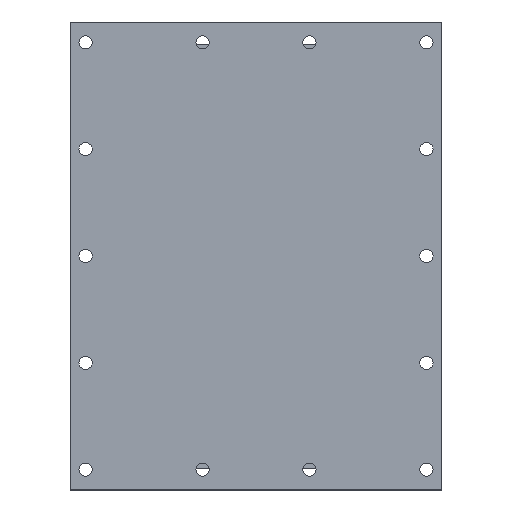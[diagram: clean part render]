
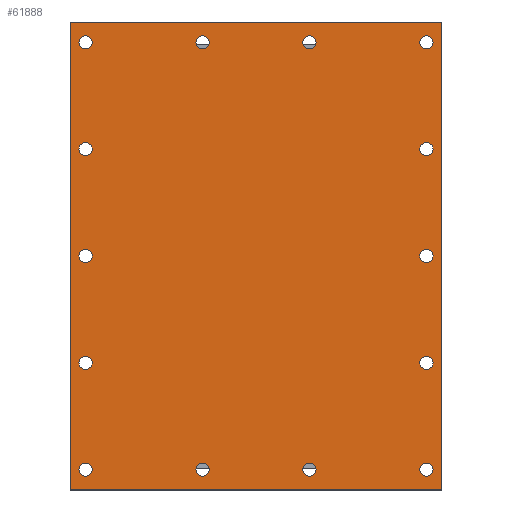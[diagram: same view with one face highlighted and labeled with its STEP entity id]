
A CAD part, top view. The second image highlights one B-rep face of the part: STEP entity #61888.
In plain terms, the highlighted planar face has unit normal (0, 0, 1).
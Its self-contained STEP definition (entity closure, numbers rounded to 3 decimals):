
#5061=LINE('',#105219,#9973);
#5062=LINE('',#105221,#9974);
#5063=LINE('',#105223,#9975);
#5064=LINE('',#105224,#9976);
#9973=VECTOR('',#77960,730.);
#9974=VECTOR('',#77961,920.);
#9975=VECTOR('',#77962,730.);
#9976=VECTOR('',#77963,920.);
#13142=PLANE('',#66686);
#15038=FACE_BOUND('',#20906,.T.);
#15039=FACE_BOUND('',#20907,.T.);
#15040=FACE_BOUND('',#20908,.T.);
#15041=FACE_BOUND('',#20909,.T.);
#15042=FACE_BOUND('',#20910,.T.);
#15043=FACE_BOUND('',#20911,.T.);
#15044=FACE_BOUND('',#20912,.T.);
#15045=FACE_BOUND('',#20913,.T.);
#15046=FACE_BOUND('',#20914,.T.);
#15047=FACE_BOUND('',#20915,.T.);
#15048=FACE_BOUND('',#20916,.T.);
#15049=FACE_BOUND('',#20917,.T.);
#15050=FACE_BOUND('',#20918,.T.);
#15051=FACE_BOUND('',#20919,.T.);
#17097=FACE_OUTER_BOUND('',#20905,.T.);
#20905=EDGE_LOOP('',(#48169,#48170,#48171,#48172));
#20906=EDGE_LOOP('',(#48173));
#20907=EDGE_LOOP('',(#48174));
#20908=EDGE_LOOP('',(#48175));
#20909=EDGE_LOOP('',(#48176));
#20910=EDGE_LOOP('',(#48177));
#20911=EDGE_LOOP('',(#48178));
#20912=EDGE_LOOP('',(#48179));
#20913=EDGE_LOOP('',(#48180));
#20914=EDGE_LOOP('',(#48181));
#20915=EDGE_LOOP('',(#48182));
#20916=EDGE_LOOP('',(#48183));
#20917=EDGE_LOOP('',(#48184));
#20918=EDGE_LOOP('',(#48185));
#20919=EDGE_LOOP('',(#48186));
#22672=CIRCLE('',#63573,13.);
#22674=CIRCLE('',#63576,13.);
#22676=CIRCLE('',#63579,13.);
#22678=CIRCLE('',#63582,13.);
#22680=CIRCLE('',#63585,13.);
#22682=CIRCLE('',#63588,13.);
#22684=CIRCLE('',#63591,13.);
#22686=CIRCLE('',#63594,13.);
#22688=CIRCLE('',#63597,13.);
#22690=CIRCLE('',#63600,13.);
#22692=CIRCLE('',#63603,13.);
#22694=CIRCLE('',#63606,13.);
#22696=CIRCLE('',#63609,13.);
#22698=CIRCLE('',#63612,13.);
#24966=VERTEX_POINT('',#85006);
#24968=VERTEX_POINT('',#85011);
#24970=VERTEX_POINT('',#85016);
#24972=VERTEX_POINT('',#85021);
#24974=VERTEX_POINT('',#85026);
#24976=VERTEX_POINT('',#85031);
#24978=VERTEX_POINT('',#85036);
#24980=VERTEX_POINT('',#85041);
#24982=VERTEX_POINT('',#85046);
#24984=VERTEX_POINT('',#85051);
#24986=VERTEX_POINT('',#85056);
#24988=VERTEX_POINT('',#85061);
#24990=VERTEX_POINT('',#85066);
#24992=VERTEX_POINT('',#85071);
#27897=VERTEX_POINT('',#105217);
#27898=VERTEX_POINT('',#105218);
#27899=VERTEX_POINT('',#105220);
#27900=VERTEX_POINT('',#105222);
#30429=EDGE_CURVE('',#24966,#24966,#22672,.T.);
#30431=EDGE_CURVE('',#24968,#24968,#22674,.T.);
#30433=EDGE_CURVE('',#24970,#24970,#22676,.T.);
#30435=EDGE_CURVE('',#24972,#24972,#22678,.T.);
#30437=EDGE_CURVE('',#24974,#24974,#22680,.T.);
#30439=EDGE_CURVE('',#24976,#24976,#22682,.T.);
#30441=EDGE_CURVE('',#24978,#24978,#22684,.T.);
#30443=EDGE_CURVE('',#24980,#24980,#22686,.T.);
#30445=EDGE_CURVE('',#24982,#24982,#22688,.T.);
#30447=EDGE_CURVE('',#24984,#24984,#22690,.T.);
#30449=EDGE_CURVE('',#24986,#24986,#22692,.T.);
#30451=EDGE_CURVE('',#24988,#24988,#22694,.T.);
#30453=EDGE_CURVE('',#24990,#24990,#22696,.T.);
#30455=EDGE_CURVE('',#24992,#24992,#22698,.T.);
#35055=EDGE_CURVE('',#27897,#27898,#5061,.T.);
#35056=EDGE_CURVE('',#27899,#27897,#5062,.T.);
#35057=EDGE_CURVE('',#27900,#27899,#5063,.T.);
#35058=EDGE_CURVE('',#27898,#27900,#5064,.T.);
#48169=ORIENTED_EDGE('',*,*,#35055,.F.);
#48170=ORIENTED_EDGE('',*,*,#35056,.F.);
#48171=ORIENTED_EDGE('',*,*,#35057,.F.);
#48172=ORIENTED_EDGE('',*,*,#35058,.F.);
#48173=ORIENTED_EDGE('',*,*,#30429,.T.);
#48174=ORIENTED_EDGE('',*,*,#30431,.T.);
#48175=ORIENTED_EDGE('',*,*,#30433,.T.);
#48176=ORIENTED_EDGE('',*,*,#30435,.T.);
#48177=ORIENTED_EDGE('',*,*,#30437,.T.);
#48178=ORIENTED_EDGE('',*,*,#30439,.T.);
#48179=ORIENTED_EDGE('',*,*,#30441,.T.);
#48180=ORIENTED_EDGE('',*,*,#30443,.T.);
#48181=ORIENTED_EDGE('',*,*,#30445,.T.);
#48182=ORIENTED_EDGE('',*,*,#30447,.T.);
#48183=ORIENTED_EDGE('',*,*,#30449,.T.);
#48184=ORIENTED_EDGE('',*,*,#30451,.T.);
#48185=ORIENTED_EDGE('',*,*,#30453,.T.);
#48186=ORIENTED_EDGE('',*,*,#30455,.T.);
#61888=ADVANCED_FACE('',(#17097,#15038,#15039,#15040,#15041,#15042,#15043,
#15044,#15045,#15046,#15047,#15048,#15049,#15050,#15051),#13142,.T.);
#63573=AXIS2_PLACEMENT_3D('',#85007,#69158,#69159);
#63576=AXIS2_PLACEMENT_3D('',#85012,#69164,#69165);
#63579=AXIS2_PLACEMENT_3D('',#85017,#69170,#69171);
#63582=AXIS2_PLACEMENT_3D('',#85022,#69176,#69177);
#63585=AXIS2_PLACEMENT_3D('',#85027,#69182,#69183);
#63588=AXIS2_PLACEMENT_3D('',#85032,#69188,#69189);
#63591=AXIS2_PLACEMENT_3D('',#85037,#69194,#69195);
#63594=AXIS2_PLACEMENT_3D('',#85042,#69200,#69201);
#63597=AXIS2_PLACEMENT_3D('',#85047,#69206,#69207);
#63600=AXIS2_PLACEMENT_3D('',#85052,#69212,#69213);
#63603=AXIS2_PLACEMENT_3D('',#85057,#69218,#69219);
#63606=AXIS2_PLACEMENT_3D('',#85062,#69224,#69225);
#63609=AXIS2_PLACEMENT_3D('',#85067,#69230,#69231);
#63612=AXIS2_PLACEMENT_3D('',#85072,#69236,#69237);
#66686=AXIS2_PLACEMENT_3D('',#105216,#77958,#77959);
#69158=DIRECTION('center_axis',(0.,0.,
-1.));
#69159=DIRECTION('ref_axis',(1.,0.,0.));
#69164=DIRECTION('center_axis',(0.,0.,
-1.));
#69165=DIRECTION('ref_axis',(1.,0.,0.));
#69170=DIRECTION('center_axis',(0.,0.,
-1.));
#69171=DIRECTION('ref_axis',(1.,0.,0.));
#69176=DIRECTION('center_axis',(0.,0.,
-1.));
#69177=DIRECTION('ref_axis',(1.,0.,0.));
#69182=DIRECTION('center_axis',(0.,0.,
-1.));
#69183=DIRECTION('ref_axis',(1.,0.,0.));
#69188=DIRECTION('center_axis',(0.,0.,
-1.));
#69189=DIRECTION('ref_axis',(1.,0.,0.));
#69194=DIRECTION('center_axis',(0.,0.,
-1.));
#69195=DIRECTION('ref_axis',(1.,0.,0.));
#69200=DIRECTION('center_axis',(0.,0.,
-1.));
#69201=DIRECTION('ref_axis',(1.,0.,0.));
#69206=DIRECTION('center_axis',(0.,0.,
-1.));
#69207=DIRECTION('ref_axis',(1.,0.,0.));
#69212=DIRECTION('center_axis',(0.,0.,
-1.));
#69213=DIRECTION('ref_axis',(1.,0.,0.));
#69218=DIRECTION('center_axis',(0.,0.,
-1.));
#69219=DIRECTION('ref_axis',(1.,0.,0.));
#69224=DIRECTION('center_axis',(0.,0.,
-1.));
#69225=DIRECTION('ref_axis',(1.,0.,0.));
#69230=DIRECTION('center_axis',(0.,0.,
-1.));
#69231=DIRECTION('ref_axis',(1.,0.,0.));
#69236=DIRECTION('center_axis',(0.,0.,
-1.));
#69237=DIRECTION('ref_axis',(1.,0.,0.));
#77958=DIRECTION('center_axis',(0.,0.,
1.));
#77959=DIRECTION('ref_axis',(0.,1.,0.));
#77960=DIRECTION('',(-1.,0.,0.));
#77961=DIRECTION('',(0.,-1.,0.));
#77962=DIRECTION('',(1.,0.,0.));
#77963=DIRECTION('',(0.,1.,0.));
#85006=CARTESIAN_POINT('',(118.,420.,12.5));
#85007=CARTESIAN_POINT('Origin',(105.,420.,12.5));
#85011=CARTESIAN_POINT('',(348.,420.,12.5));
#85012=CARTESIAN_POINT('Origin',(335.,420.,12.5));
#85016=CARTESIAN_POINT('',(348.,-420.,12.5));
#85017=CARTESIAN_POINT('Origin',(335.,-420.,12.5));
#85021=CARTESIAN_POINT('',(118.,-420.,12.5));
#85022=CARTESIAN_POINT('Origin',(105.,-420.,12.5));
#85026=CARTESIAN_POINT('',(-322.,420.,12.5));
#85027=CARTESIAN_POINT('Origin',(-335.,420.,12.5));
#85031=CARTESIAN_POINT('',(-322.,0.,12.5));
#85032=CARTESIAN_POINT('Origin',(-335.,0.,12.5));
#85036=CARTESIAN_POINT('',(-322.,-420.,12.5));
#85037=CARTESIAN_POINT('Origin',(-335.,-420.,12.5));
#85041=CARTESIAN_POINT('',(-322.,-210.,12.5));
#85042=CARTESIAN_POINT('Origin',(-335.,-210.,12.5));
#85046=CARTESIAN_POINT('',(-322.,210.,12.5));
#85047=CARTESIAN_POINT('Origin',(-335.,210.,12.5));
#85051=CARTESIAN_POINT('',(-92.,-420.,12.5));
#85052=CARTESIAN_POINT('Origin',(-105.,-420.,12.5));
#85056=CARTESIAN_POINT('',(348.,-210.,12.5));
#85057=CARTESIAN_POINT('Origin',(335.,-210.,12.5));
#85061=CARTESIAN_POINT('',(348.,0.,12.5));
#85062=CARTESIAN_POINT('Origin',(335.,0.,12.5));
#85066=CARTESIAN_POINT('',(348.,210.,12.5));
#85067=CARTESIAN_POINT('Origin',(335.,210.,12.5));
#85071=CARTESIAN_POINT('',(-92.,420.,12.5));
#85072=CARTESIAN_POINT('Origin',(-105.,420.,12.5));
#105216=CARTESIAN_POINT('Origin',(0.,0.,
12.5));
#105217=CARTESIAN_POINT('',(365.,-460.,12.5));
#105218=CARTESIAN_POINT('',(-365.,-460.,12.5));
#105219=CARTESIAN_POINT('',(-365.,-460.,12.5));
#105220=CARTESIAN_POINT('',(365.,460.,12.5));
#105221=CARTESIAN_POINT('',(365.,-460.,12.5));
#105222=CARTESIAN_POINT('',(-365.,460.,12.5));
#105223=CARTESIAN_POINT('',(365.,460.,12.5));
#105224=CARTESIAN_POINT('',(-365.,460.,12.5));
